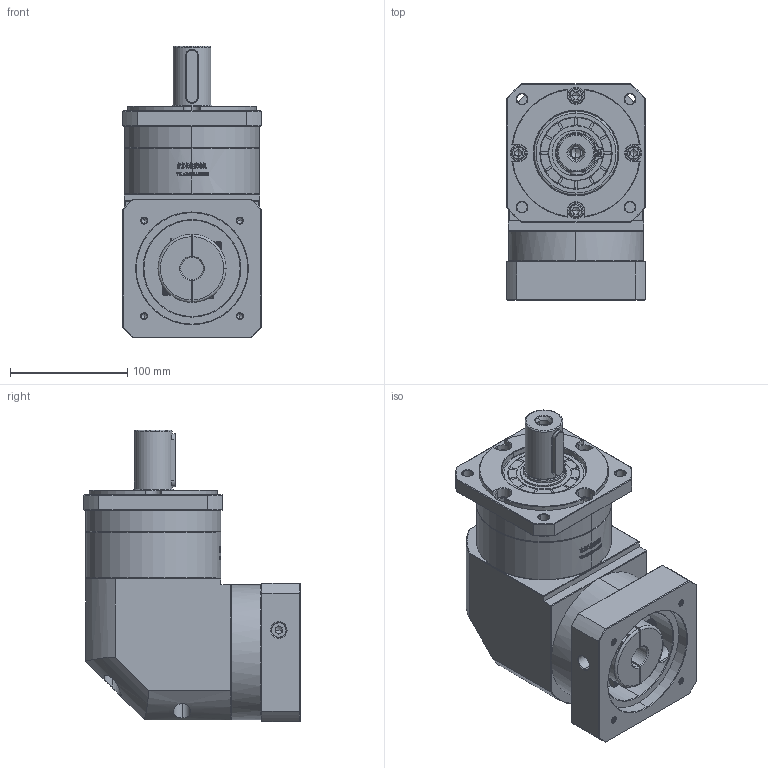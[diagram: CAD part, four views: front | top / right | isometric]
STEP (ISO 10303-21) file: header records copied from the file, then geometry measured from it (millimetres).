
FILE_DESCRIPTION (( 'STEP AP214' ), '1' );
FILE_NAME ('ZFR120A-D32-L1-19-95-115-M6.step', '2023-03-08T08:23:34', ( '' ), ( '' ), 'SwSTEP 2.0', 'SolidWorks 2016', '' );
FILE_SCHEMA (( 'AUTOMOTIVE_DESIGN' ));
Length unit declared in the file: millimetre
Products named in the file (1): ZFR120A-D32-L1-19-95-115-M6
Bounding box: 118 x 183.9 x 248 mm (x, y, z)
Volume: 2815346.3 mm3; surface area: 236913 mm2
Topology: 6 solids, 6 shells, 2858 faces, 7637 edges, 4923 vertices
Faces by surface type: plane 1483, bspline 610, cylinder 419, cone 338, torus 8
Entity records: 158479 total; most frequent: CARTESIAN_POINT 61536, ORIENTED_EDGE 15214, DIRECTION 11072, EDGE_CURVE 7607, VERTEX_POINT 4923, VECTOR 4730, LINE 4730, AXIS2_PLACEMENT_3D 3171
